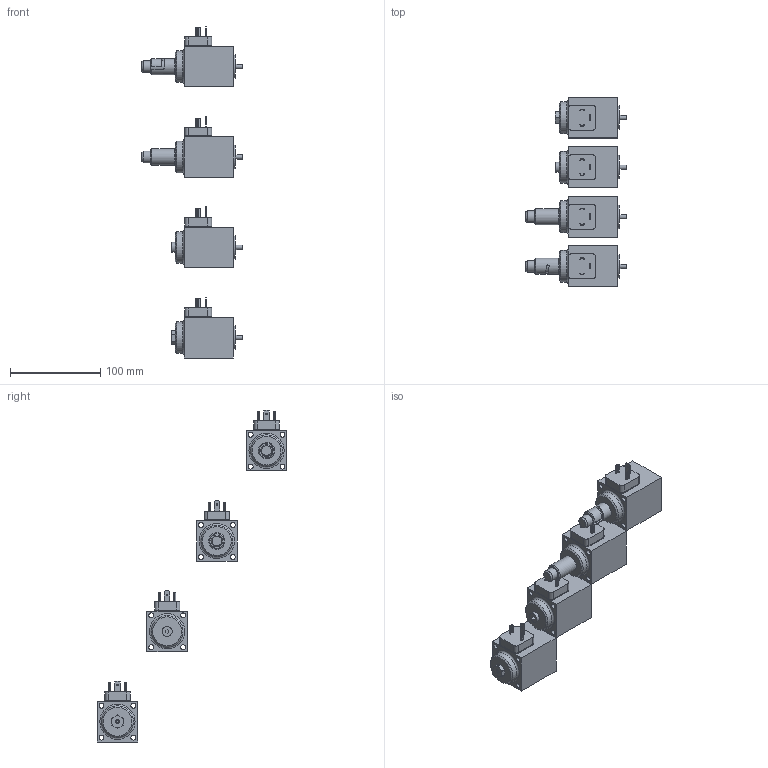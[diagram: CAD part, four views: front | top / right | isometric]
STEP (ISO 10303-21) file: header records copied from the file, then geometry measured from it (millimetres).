
FILE_DESCRIPTION(('Bauteilbeschreibung','HiCAD-Model','HiCAD-STEP-TRANSLATION','Bauteilbeschreibung'),'2;1');
FILE_NAME('K:/STEP_DXF/SIN45V.STP','2006-03-28T16:42:39+00:00',('Konstrukteur'),('Konstrukteur Firma GmbH'),'HiCAD3 V1210 STEP 1.6.2005','HiCAD3 V1210','confidential');
FILE_SCHEMA(('AUTOMOTIVE_DESIGN { 1 2 10303 214 0 1 1 1 }'));
Length unit declared in the file: millimetre
Products named in the file (29): SIN45V; SIN45V_H19; DA267541; DAB12417; DAB124170; DICHTUNG; AE4B5AD6; A6C5878A; SIN45V_H1; A5AC7C5F; DAB124171; DAB124172; DICHTUNG0; AE4B5AD60; A270342B; SIN45V_HB0; A6B41859; F134825D; DAB124173; DAB124174; DICHTUNG1; AE4B5AD61; SIN45V_HB6; ACD03E29; DAB124175; DAB124176; DICHTUNG2; AE4B5AD62; CF9A8A47
Assembly tree (28 placements, depth 5):
  SIN45V
    SIN45V_H19
      DA267541
        DAB12417
        DAB124170
          DICHTUNG
        AE4B5AD6
        A6C5878A
    SIN45V_H1
      A5AC7C5F
        DAB124171
        DAB124172
          DICHTUNG0
        AE4B5AD60
        A270342B
    SIN45V_HB0
      A6B41859
        F134825D
        DAB124173
        DAB124174
          DICHTUNG1
        AE4B5AD61
    SIN45V_HB6
      ACD03E29
        DAB124175
        DAB124176
          DICHTUNG2
        AE4B5AD62
        CF9A8A47
Bounding box: 111.4 x 210 x 367.5 mm (x, y, z)
Volume: 506975.4 mm3; surface area: 105369 mm2
Topology: 28 solids, 28 shells, 457 faces, 1070 edges, 722 vertices
Faces by surface type: plane 261, cylinder 155, cone 30, torus 11
Full cylindrical faces by diameter (mm): 1.5 x12, 2.5 x1, 3 x12, 4.2 x1, 4.9 x4, 5.5 x16, 6 x1, 6.4 x1, 6.5 x4, 6.8 x2, 8 x8, 9.8 x4, 11 x1, 13 x2, 13.6 x4, 15 x4, 18 x2, 26 x4, 35 x4
Entity records: 21690 total; most frequent: CARTESIAN_POINT 2806, DIRECTION 2235, ORIENTED_EDGE 1794, COLOUR_RGB 1370, PRESENTATION_STYLE_ASSIGNMENT 1370, OVER_RIDING_STYLED_ITEM 1354, CURVE_STYLE 897, DRAUGHTING_PRE_DEFINED_CURVE_FONT 897
